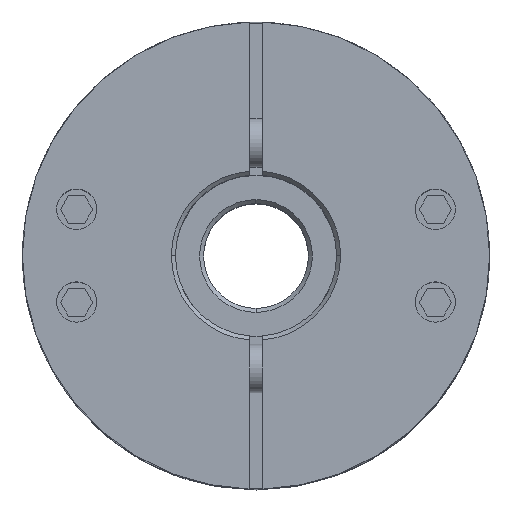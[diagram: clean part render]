
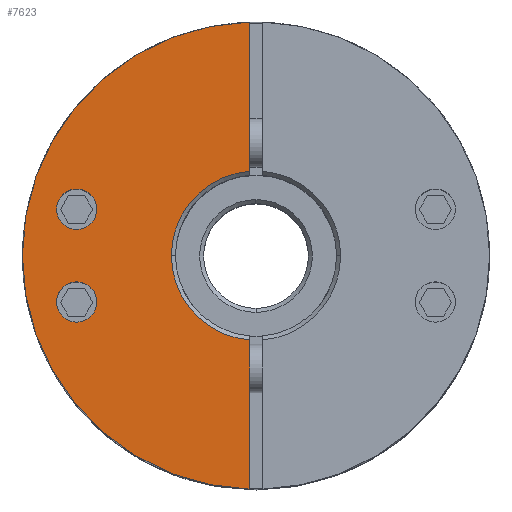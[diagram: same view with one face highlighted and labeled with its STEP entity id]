
A CAD part, top view. The second image highlights one B-rep face of the part: STEP entity #7623.
In plain terms, the highlighted planar face has unit normal (0, 0, 1).
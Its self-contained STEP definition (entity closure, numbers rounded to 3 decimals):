
#4229=CARTESIAN_POINT('',(-19.767,-5.759,27.125));
#4230=VERTEX_POINT('',#4229);
#4239=CARTESIAN_POINT('',(-24.767,-5.759,27.125));
#4240=VERTEX_POINT('',#4239);
#4241=CARTESIAN_POINT('',(-22.267,-5.759,27.125));
#4242=DIRECTION('',(0.0,0.0,-1.0));
#4243=DIRECTION('',(1.0,0.0,0.0));
#4244=AXIS2_PLACEMENT_3D('',#4241,#4242,#4243);
#4245=CIRCLE('',#4244,2.5);
#4246=EDGE_CURVE('',#4240,#4230,#4245,.T.);
#4355=CARTESIAN_POINT('',(-19.767,5.759,27.125));
#4356=VERTEX_POINT('',#4355);
#4365=CARTESIAN_POINT('',(-24.767,5.759,27.125));
#4366=VERTEX_POINT('',#4365);
#4367=CARTESIAN_POINT('',(-22.267,5.759,27.125));
#4368=DIRECTION('',(0.0,0.0,-1.0));
#4369=DIRECTION('',(1.0,0.0,0.0));
#4370=AXIS2_PLACEMENT_3D('',#4367,#4368,#4369);
#4371=CIRCLE('',#4370,2.5);
#4372=EDGE_CURVE('',#4366,#4356,#4371,.T.);
#4584=CARTESIAN_POINT('',(-29.0,0.,27.125));
#4585=VERTEX_POINT('',#4584);
#4592=CARTESIAN_POINT('',(-0.75,28.99,27.125));
#4593=VERTEX_POINT('',#4592);
#4594=CARTESIAN_POINT('',(0.0,0.0,27.125));
#4595=DIRECTION('',(0.0,0.0,-1.0));
#4596=DIRECTION('',(1.0,0.0,0.0));
#4597=AXIS2_PLACEMENT_3D('',#4594,#4595,#4596);
#4598=CIRCLE('',#4597,29.0);
#4599=EDGE_CURVE('',#4585,#4593,#4598,.T.);
#4950=CARTESIAN_POINT('',(-10.5,0.,27.125));
#4951=VERTEX_POINT('',#4950);
#4967=CARTESIAN_POINT('',(-0.75,10.473,27.125));
#4968=VERTEX_POINT('',#4967);
#4982=CARTESIAN_POINT('',(0.0,0.0,27.125));
#4983=DIRECTION('',(0.0,0.0,1.0));
#4984=DIRECTION('',(-1.0,0.0,0.0));
#4985=AXIS2_PLACEMENT_3D('',#4982,#4983,#4984);
#4986=CIRCLE('',#4985,10.5);
#4987=EDGE_CURVE('',#4968,#4951,#4986,.T.);
#7376=CARTESIAN_POINT('',(-0.75,-10.473,27.125));
#7377=VERTEX_POINT('',#7376);
#7378=CARTESIAN_POINT('',(0.0,0.0,27.125));
#7379=DIRECTION('',(0.0,0.0,1.0));
#7380=DIRECTION('',(-1.0,0.0,0.0));
#7381=AXIS2_PLACEMENT_3D('',#7378,#7379,#7380);
#7382=CIRCLE('',#7381,10.5);
#7383=EDGE_CURVE('',#4951,#7377,#7382,.T.);
#7416=CARTESIAN_POINT('',(-0.75,10.473,27.125));
#7417=DIRECTION('',(0.0,1.0,0.0));
#7418=VECTOR('',#7417,18.517);
#7419=LINE('',#7416,#7418);
#7420=EDGE_CURVE('',#4968,#4593,#7419,.T.);
#7530=CARTESIAN_POINT('',(-0.75,-28.99,27.125));
#7531=VERTEX_POINT('',#7530);
#7532=CARTESIAN_POINT('',(-0.75,-28.99,27.125));
#7533=DIRECTION('',(0.0,1.0,0.0));
#7534=VECTOR('',#7533,18.517);
#7535=LINE('',#7532,#7534);
#7536=EDGE_CURVE('',#7531,#7377,#7535,.T.);
#7584=CARTESIAN_POINT('',(2.636,0.,27.125));
#7585=DIRECTION('',(0.0,0.0,1.0));
#7586=DIRECTION('',(1.0,0.0,0.0));
#7587=AXIS2_PLACEMENT_3D('',#7584,#7585,#7586);
#7588=PLANE('',#7587);
#7589=ORIENTED_EDGE('',*,*,#4987,.F.);
#7590=ORIENTED_EDGE('',*,*,#7420,.T.);
#7591=ORIENTED_EDGE('',*,*,#4599,.F.);
#7592=CARTESIAN_POINT('',(0.0,0.0,27.125));
#7593=DIRECTION('',(0.0,0.0,-1.0));
#7594=DIRECTION('',(1.0,0.0,0.0));
#7595=AXIS2_PLACEMENT_3D('',#7592,#7593,#7594);
#7596=CIRCLE('',#7595,29.0);
#7597=EDGE_CURVE('',#7531,#4585,#7596,.T.);
#7598=ORIENTED_EDGE('',*,*,#7597,.F.);
#7599=ORIENTED_EDGE('',*,*,#7536,.T.);
#7600=ORIENTED_EDGE('',*,*,#7383,.F.);
#7601=EDGE_LOOP('',(#7589,#7590,#7591,#7598,#7599,#7600));
#7602=FACE_OUTER_BOUND('',#7601,.T.);
#7603=CARTESIAN_POINT('',(-22.267,-5.759,27.125));
#7604=DIRECTION('',(0.0,0.0,-1.0));
#7605=DIRECTION('',(1.0,0.0,0.0));
#7606=AXIS2_PLACEMENT_3D('',#7603,#7604,#7605);
#7607=CIRCLE('',#7606,2.5);
#7608=EDGE_CURVE('',#4230,#4240,#7607,.T.);
#7609=ORIENTED_EDGE('',*,*,#7608,.T.);
#7610=ORIENTED_EDGE('',*,*,#4246,.T.);
#7611=EDGE_LOOP('',(#7609,#7610));
#7612=FACE_BOUND('',#7611,.T.);
#7613=CARTESIAN_POINT('',(-22.267,5.759,27.125));
#7614=DIRECTION('',(0.0,0.0,-1.0));
#7615=DIRECTION('',(1.0,0.0,0.0));
#7616=AXIS2_PLACEMENT_3D('',#7613,#7614,#7615);
#7617=CIRCLE('',#7616,2.5);
#7618=EDGE_CURVE('',#4356,#4366,#7617,.T.);
#7619=ORIENTED_EDGE('',*,*,#7618,.T.);
#7620=ORIENTED_EDGE('',*,*,#4372,.T.);
#7621=EDGE_LOOP('',(#7619,#7620));
#7622=FACE_BOUND('',#7621,.T.);
#7623=ADVANCED_FACE('',(#7602,#7612,#7622),#7588,.T.);
